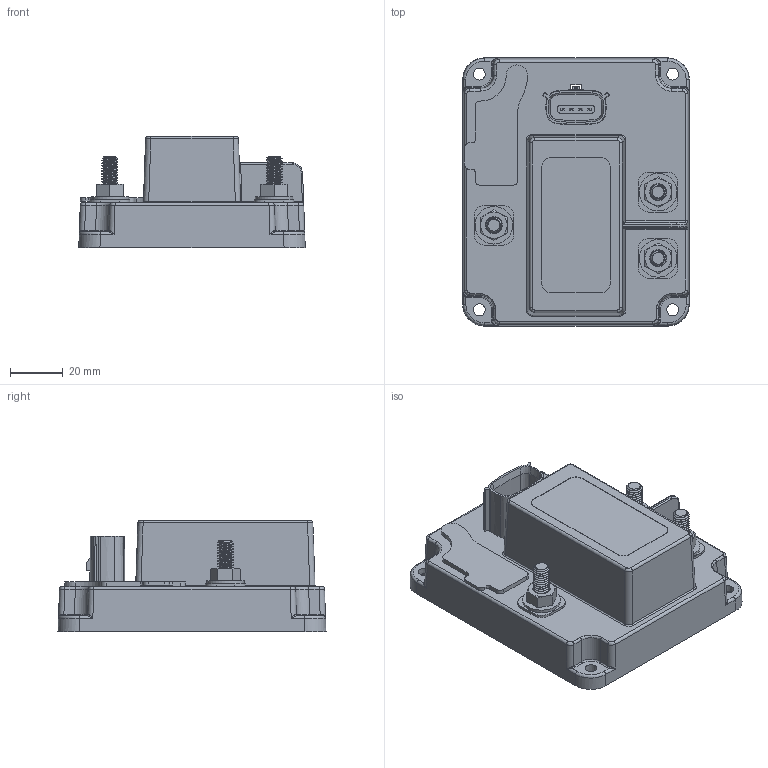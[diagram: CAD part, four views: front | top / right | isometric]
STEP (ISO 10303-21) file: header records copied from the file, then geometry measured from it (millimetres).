
FILE_DESCRIPTION(/* description */ (''),/* implementation_level */ '2;1');
FILE_NAME(/* name */ '5fa1d11942f96e11f34be47e',/* time_stamp */ '2020-11-03T21:52:26+00:00',/* author */ (''),/* organization */ (''),/* preprocessor_version */ 'ST-DEVELOPER v16.7',/* originating_system */ $,/* authorisation */ $);
FILE_SCHEMA (('AUTOMOTIVE_DESIGN {1 0 10303 214 3 1 1}'));
Length unit declared in the file: metre
Products named in the file (1): Part 1
Bounding box: 85.5 x 101.18 x 42 mm (x, y, z)
Volume: 197319.4 mm3; surface area: 36556.3 mm2
Topology: 1 solids, 3 shells, 525 faces, 1348 edges, 835 vertices
Faces by surface type: plane 218, cylinder 148, bspline 78, cone 75, sphere 4, torus 2
Full cylindrical faces by diameter (mm): 4 x1, 6.8 x3, 14.2 x3
Entity records: 28885 total; most frequent: CARTESIAN_POINT 16747, ORIENTED_EDGE 2586, DIRECTION 2462, EDGE_CURVE 1293, AXIS2_PLACEMENT_3D 912, VERTEX_POINT 816, LINE 638, VECTOR 638
